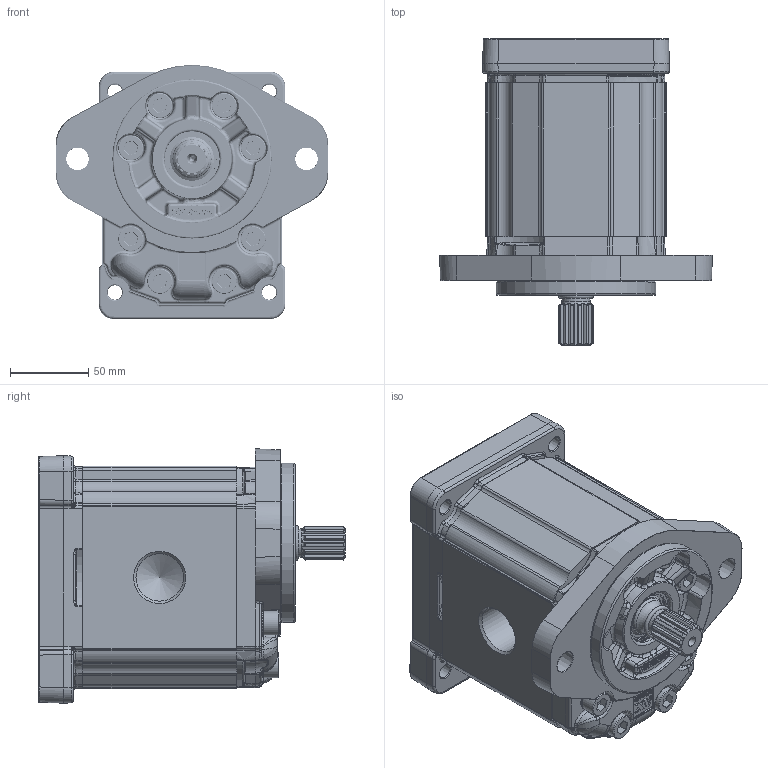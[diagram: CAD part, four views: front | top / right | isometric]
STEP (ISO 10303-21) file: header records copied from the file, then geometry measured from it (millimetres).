
FILE_DESCRIPTION(/* description */ ('Unknown'),/* implementation_level */ '2;1');
FILE_NAME(/* name */ 'X3T8232IEEA',/* time_stamp */ '2026-06-04T20:04:20+02:00',/* author */ ('Unknown'),/* organization */ ('Unknown'),/* preprocessor_version */ 'ST-DEVELOPER v16.7',/* originating_system */ 'Solid Edge',/* authorisation */ 'Unknown');
FILE_SCHEMA (('AUTOMOTIVE_DESIGN {1 0 10303 214 3 1 1}'));
Products named in the file (5): X3T8232IEEA; X3T32; 3I; X3EEH98; XT331-A
Assembly tree (4 placements, depth 2):
  X3T8232IEEA
    X3T32
    3I
    X3EEH98
    XT331-A
Bounding box: 174 x 195.2 x 162.2 mm (x, y, z)
Volume: 2308888.1 mm3; surface area: 250198.8 mm2
Topology: 5 solids, 6 shells, 4204 faces, 13006 edges, 8102 vertices
Faces by surface type: cylinder 1811, plane 1282, bspline 602, torus 263, cone 221, sphere 25
Full cylindrical faces by diameter (mm): 2 x2, 6.8 x4, 9.007 x4, 10 x16, 10.35 x32, 14.314 x1, 14.315 x1, 15.8 x16, 16 x16, 17 x2, 18 x2, 20.5 x1, 24.98 x2, 25 x2, 25.968 x1, 28.16 x1, 30.291 x2, 31 x1, 31.293 x1, 32.742 x1, 34.956 x1, 35 x2, 35.2 x1, 37 x1, 46.8 x1, 50.8 x1, 101.6 x1
Entity records: 236455 total; most frequent: CARTESIAN_POINT 100671, ORIENTED_EDGE 24916, DIRECTION 19728, EDGE_CURVE 12458, VERTEX_POINT 7920, AXIS2_PLACEMENT_3D 7717, FACE_BOUND 4684, EDGE_LOOP 4675
